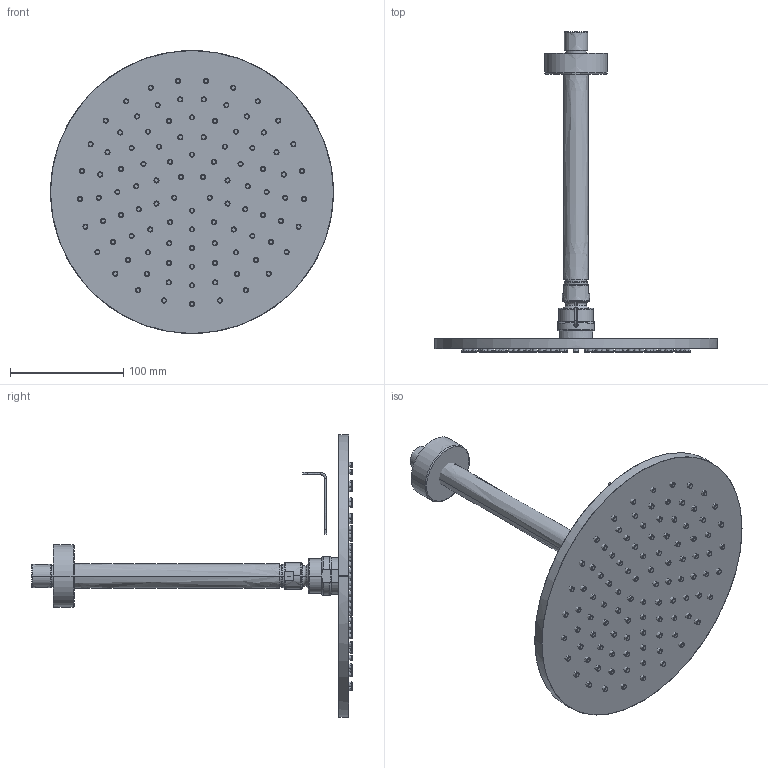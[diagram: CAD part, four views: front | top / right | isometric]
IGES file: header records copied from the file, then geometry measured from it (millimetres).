
Start section:  PTC IGES file: GPF4375200000A002_1.igs
Global section: file name: GPF4375200000A002_1.igs; native system: Creo Parametric by PTC Inc.; preprocessor: 2020281; author: PLMexport; organization: Unknown; date: 20211206.200105; units: millimetre
Bounding box: 250 x 283.1 x 250 mm (x, y, z)
Surface area: 146783 mm2 (no closed solid volume)
Topology: 0 solids, 0 shells, 590 faces, 2156 edges, 2156 vertices
Faces by surface type: bspline 590
